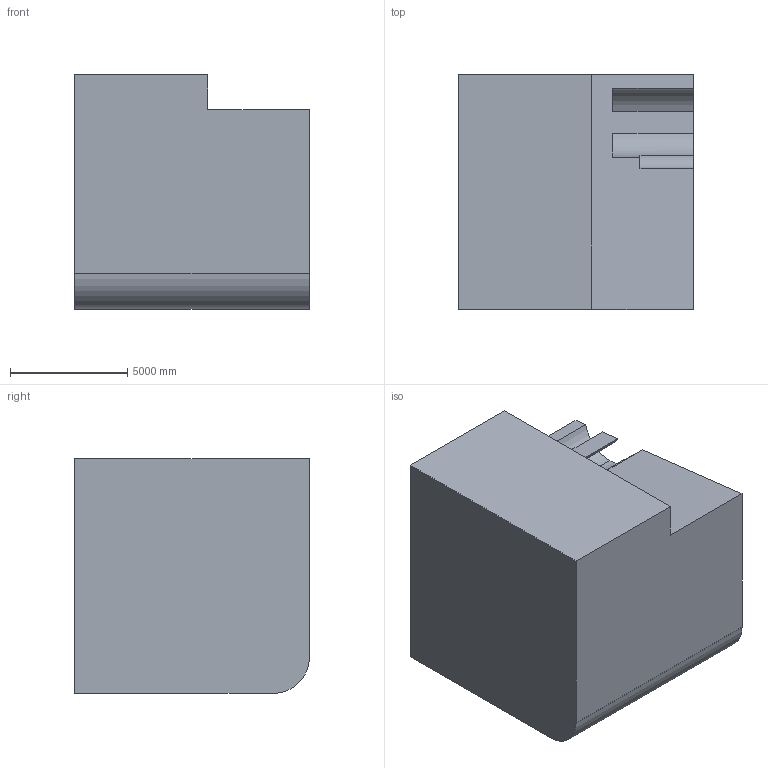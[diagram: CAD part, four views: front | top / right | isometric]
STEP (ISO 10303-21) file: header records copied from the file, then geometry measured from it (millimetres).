
FILE_DESCRIPTION (( 'STEP AP203' ), '1' );
FILE_NAME ('513.STEP', '2022-07-29T11:35:38', ( 'user' ), ( '' ), 'SwSTEP 2.0', 'SolidWorks 2021', '' );
FILE_SCHEMA (( 'CONFIG_CONTROL_DESIGN' ));
Length unit declared in the file: centimetre
Products named in the file (1): 513
Bounding box: 10000 x 10000 x 10000 mm (x, y, z)
Volume: 865705713615.3 mm3; surface area: 654260679.4 mm2
Topology: 1 solids, 1 shells, 29 faces, 75 edges, 50 vertices
Faces by surface type: plane 15, cylinder 14
Entity records: 1175 total; most frequent: CARTESIAN_POINT 359, DIRECTION 160, ORIENTED_EDGE 150, EDGE_CURVE 75, AXIS2_PLACEMENT_3D 59, VERTEX_POINT 50, VECTOR 42, LINE 42
